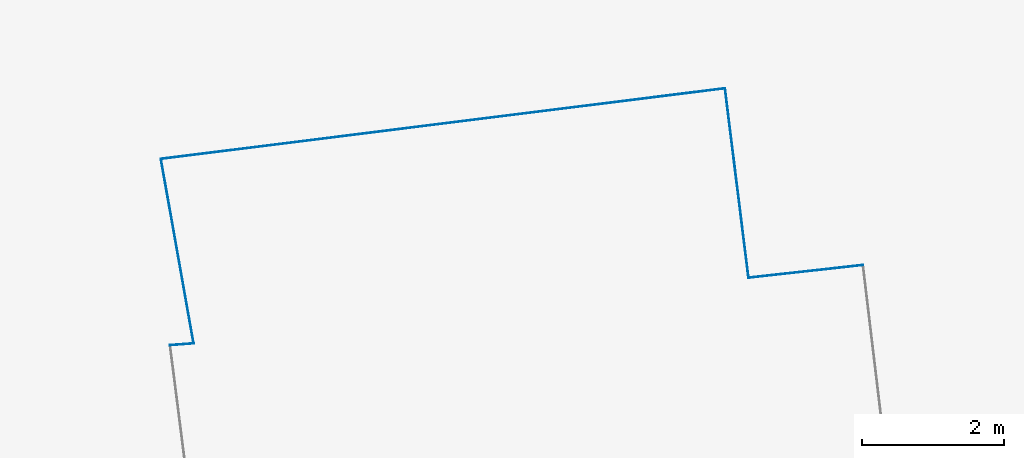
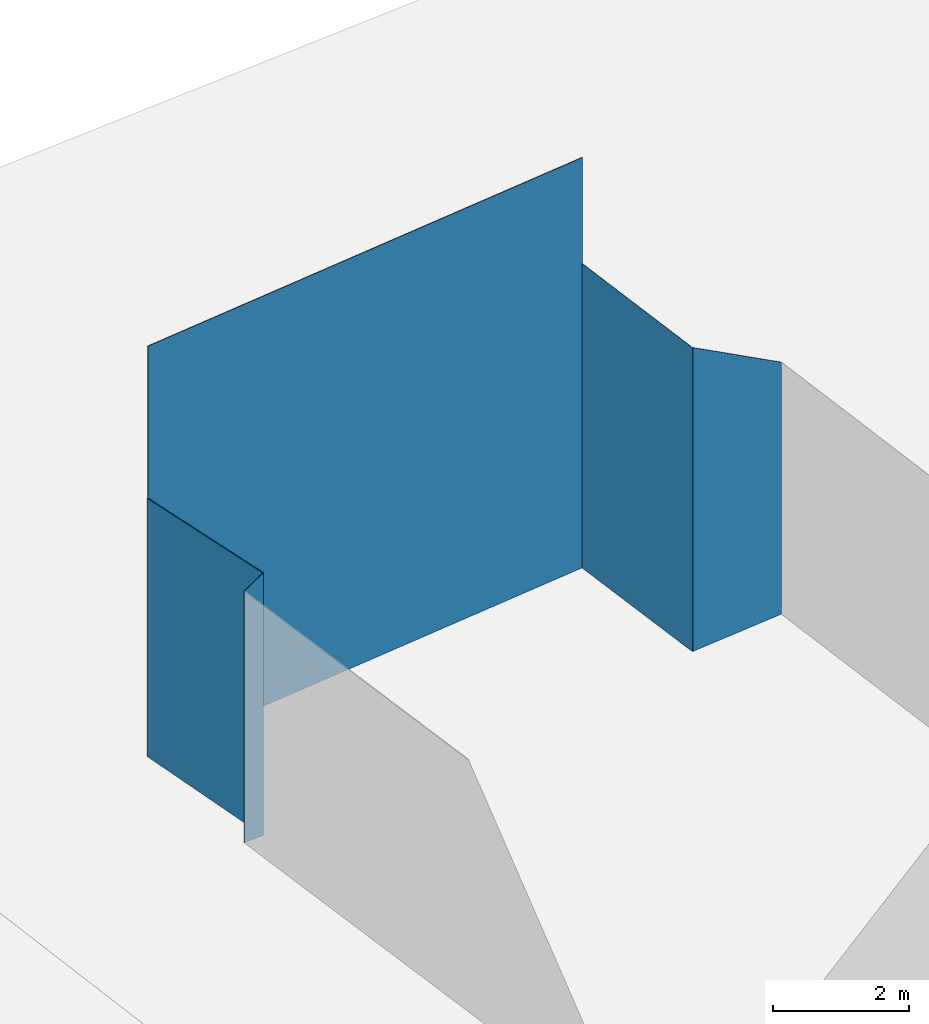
# One storey, part 36 of 75: 5 walls.
"""IFC2X3 building model written with IfcOpenShell, lengths in metres."""

from ifc_helpers import new_model, entity, si_unit, converted_unit, derived_unit, direction, frame, origin, place, context, subcontext, project, spatial, polyline, outline, extrude, clip, bounded_halfspace, material, layer, layer_set, layer_usage, type_object, element, save


model = new_model("IFC2X3")

# Units and contexts
model_context = context("Model", 3, precision=1e-05, world=origin(), true_north=direction((6.123031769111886e-17, 1.0)))
body_context = subcontext(model_context, "Body", "Model", "MODEL_VIEW")
ifc_project = project(units=[si_unit("LENGTHUNIT", "METRE"), si_unit("AREAUNIT", "SQUARE_METRE"), si_unit("VOLUMEUNIT", "CUBIC_METRE"), converted_unit("PLANEANGLEUNIT", "DEGREE", entity("IfcRatioMeasure", 0.017453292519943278), si_unit("PLANEANGLEUNIT", "RADIAN"), dimensions=[0, 0, 0, 0, 0, 0, 0]), si_unit("MASSUNIT", "GRAM", prefix="KILO"), derived_unit("MASSDENSITYUNIT", [(si_unit("MASSUNIT", "GRAM", prefix="KILO"), 1), (si_unit("LENGTHUNIT", "METRE"), -3)]), derived_unit("IONCONCENTRATIONUNIT", [(si_unit("MASSUNIT", "GRAM", prefix="KILO"), 1), (si_unit("LENGTHUNIT", "METRE"), -3)]), derived_unit("MOMENTOFINERTIAUNIT", [(si_unit("LENGTHUNIT", "METRE"), 4)]), si_unit("TIMEUNIT", "SECOND"), si_unit("FREQUENCYUNIT", "HERTZ"), si_unit("THERMODYNAMICTEMPERATUREUNIT", "DEGREE_CELSIUS"), derived_unit("THERMALTRANSMITTANCEUNIT", [(si_unit("MASSUNIT", "GRAM", prefix="KILO"), 1), (si_unit("THERMODYNAMICTEMPERATUREUNIT", "KELVIN"), -1), (si_unit("TIMEUNIT", "SECOND"), -3)]), derived_unit("THERMALCONDUCTANCEUNIT", [(si_unit("MASSUNIT", "GRAM", prefix="KILO"), 1), (si_unit("THERMODYNAMICTEMPERATUREUNIT", "KELVIN"), -1), (si_unit("TIMEUNIT", "SECOND"), -3), (si_unit("LENGTHUNIT", "METRE"), 1)]), derived_unit("VOLUMETRICFLOWRATEUNIT", [(si_unit("LENGTHUNIT", "METRE"), 3), (si_unit("TIMEUNIT", "SECOND"), -1)]), derived_unit("MASSFLOWRATEUNIT", [(si_unit("MASSUNIT", "GRAM", prefix="KILO"), 1), (si_unit("TIMEUNIT", "SECOND"), -1)]), derived_unit("ROTATIONALFREQUENCYUNIT", [(si_unit("TIMEUNIT", "SECOND"), -1)]), si_unit("ELECTRICCURRENTUNIT", "AMPERE"), si_unit("ELECTRICVOLTAGEUNIT", "VOLT"), si_unit("POWERUNIT", "WATT"), si_unit("FORCEUNIT", "NEWTON", prefix="KILO"), si_unit("ILLUMINANCEUNIT", "LUX"), si_unit("LUMINOUSFLUXUNIT", "LUMEN"), si_unit("LUMINOUSINTENSITYUNIT", "CANDELA"), derived_unit("USERDEFINED", [(si_unit("MASSUNIT", "GRAM", prefix="KILO"), -1), (si_unit("LENGTHUNIT", "METRE"), -2), (si_unit("TIMEUNIT", "SECOND"), 3), (si_unit("LUMINOUSFLUXUNIT", "LUMEN"), 1)]), derived_unit("USERDEFINED", [(si_unit("MASSUNIT", "GRAM", prefix="KILO"), 1), (si_unit("TIMEUNIT", "SECOND"), -3), (si_unit("LENGTHUNIT", "METRE"), 3), (si_unit("ELECTRICCURRENTUNIT", "AMPERE"), -2)]), derived_unit("SOUNDPOWERUNIT", [(si_unit("MASSUNIT", "GRAM", prefix="KILO"), 1), (si_unit("TIMEUNIT", "SECOND"), -3), (si_unit("LENGTHUNIT", "METRE"), 2)]), derived_unit("SOUNDPRESSUREUNIT", [(si_unit("MASSUNIT", "GRAM", prefix="KILO"), 1), (si_unit("LENGTHUNIT", "METRE"), -1), (si_unit("TIMEUNIT", "SECOND"), -2)]), derived_unit("LINEARVELOCITYUNIT", [(si_unit("LENGTHUNIT", "METRE"), 1), (si_unit("TIMEUNIT", "SECOND"), -1)]), si_unit("PRESSUREUNIT", "PASCAL"), derived_unit("USERDEFINED", [(si_unit("MASSUNIT", "GRAM", prefix="KILO"), 1), (si_unit("LENGTHUNIT", "METRE"), -2), (si_unit("TIMEUNIT", "SECOND"), -2)]), derived_unit("LINEARFORCEUNIT", [(si_unit("MASSUNIT", "GRAM", prefix="KILO"), 1), (si_unit("TIMEUNIT", "SECOND"), -2)]), derived_unit("PLANARFORCEUNIT", [(si_unit("MASSUNIT", "GRAM", prefix="KILO"), 1), (si_unit("LENGTHUNIT", "METRE"), -1), (si_unit("TIMEUNIT", "SECOND"), -2)]), derived_unit("SPECIFICHEATCAPACITYUNIT", [(si_unit("THERMODYNAMICTEMPERATUREUNIT", "KELVIN"), -1), (si_unit("LENGTHUNIT", "METRE"), 2), (si_unit("TIMEUNIT", "SECOND"), -2)]), derived_unit("HEATINGVALUEUNIT", [(si_unit("LENGTHUNIT", "METRE"), 2), (si_unit("TIMEUNIT", "SECOND"), -2)]), derived_unit("VAPORPERMEABILITYUNIT", [(si_unit("LENGTHUNIT", "METRE"), -1), (si_unit("TIMEUNIT", "SECOND"), 1)]), derived_unit("DYNAMICVISCOSITYUNIT", [(si_unit("MASSUNIT", "GRAM", prefix="KILO"), 1), (si_unit("TIMEUNIT", "SECOND"), -1), (si_unit("LENGTHUNIT", "METRE"), -1)]), derived_unit("THERMALEXPANSIONCOEFFICIENTUNIT", [(si_unit("THERMODYNAMICTEMPERATUREUNIT", "KELVIN"), -1)]), derived_unit("MODULUSOFELASTICITYUNIT", [(si_unit("MASSUNIT", "GRAM", prefix="KILO"), 1), (si_unit("LENGTHUNIT", "METRE"), -1), (si_unit("TIMEUNIT", "SECOND"), -2)]), derived_unit("ISOTHERMALMOISTURECAPACITYUNIT", [(si_unit("LENGTHUNIT", "METRE"), 3), (si_unit("MASSUNIT", "GRAM", prefix="KILO"), -1)]), derived_unit("MOISTUREDIFFUSIVITYUNIT", [(si_unit("TIMEUNIT", "SECOND"), -1), (si_unit("LENGTHUNIT", "METRE"), 2)])], contexts=[model_context])

# Site, building, storey
site_placement = place(None, origin())
site = spatial("IfcSite", under=ifc_project, at=site_placement, Name="Default", CompositionType="ELEMENT")
building_placement = place(site_placement, origin())
building = spatial("IfcBuilding", under=site, at=building_placement, Name="Projeto", CompositionType="ELEMENT")
storey_placement = place(building_placement, origin())
storey = spatial("IfcBuildingStorey", under=building, at=storey_placement, Name="Nível 1", CompositionType="ELEMENT", Elevation=0.0)

# Walls
ifc_material = material(Name="Metal")
ifc_layer = layer(ifc_material, 0.01)
ifc_layer_set = layer_set([ifc_layer], Name="Parede básica:JA_Aluminio")
ifc_layer_usage = layer_usage(ifc_layer_set, "AXIS2", "NEGATIVE", 0.005)
wall_type = type_object("IfcWallType", Name="Parede básica:JA_Aluminio", PredefinedType="STANDARD", material=ifc_layer_set)
wall_1_placement = place(storey_placement, frame((23.0342956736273, 62.37741942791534, -2.6), z_axis=(0.0, 0.0, 1.0), x_axis=(0.997203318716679, 0.0747364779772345, 0.0)))
element("IfcWallStandardCase", 1, at=wall_1_placement, inside=storey, type_object=wall_type, material=ifc_layer_usage, Name="Parede básica:JA_Aluminio", ObjectType="Parede básica:JA_Aluminio", context=body_context, shape_type="Clipping", body=[
    clip(extrude(outline(polyline([(0.34472911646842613, -0.005000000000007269), (0.34371778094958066, 0.005000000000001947), (0.33366677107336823, 0.005000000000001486), (0.0, 0.005000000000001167), (0.0005238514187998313, -0.005000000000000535), (0.010537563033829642, -0.0049999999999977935), (0.34472911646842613, -0.005000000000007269)])), origin(), (0.0, 0.0, 1.0), 4.718070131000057), bounded_halfspace(frame((0.0005238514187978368, -0.004999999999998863, 4.519615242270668), z_axis=(-0.49931535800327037, -0.026156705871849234, 0.8660254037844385), x_axis=(0.052313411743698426, -0.9986307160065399, 0.0)), False, frame((0.0005238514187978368, -0.004999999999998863, 4.519615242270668)), polyline([(0.0, 0.0), (0.010013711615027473, 0.0), (0.34420526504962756, 0.0), (0.34319392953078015, 0.009999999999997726), (0.3331429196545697, 0.009999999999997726), (-0.0005238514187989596, 0.009999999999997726), (0.0, 0.0)]))),
])
wall_2_placement = place(storey_placement, frame((23.371755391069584, 62.40722022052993, -2.6), z_axis=(0.0, 0.0, 1.0), x_axis=(-0.1746960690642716, 0.9846224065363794, 0.0)))
element("IfcWallStandardCase", 2, at=wall_2_placement, inside=storey, type_object=wall_type, material=ifc_layer_usage, Name="Parede básica:JA_Aluminio", ObjectType="Parede básica:JA_Aluminio", context=body_context, shape_type="Clipping", body=[
    clip(extrude(outline(polyline([(2.6440464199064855, -0.005000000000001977), (2.644558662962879, 0.005000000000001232), (0.0010113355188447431, 0.0050000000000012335), (0.0, -0.005000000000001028), (2.6340333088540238, -0.004999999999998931), (2.6440464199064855, -0.005000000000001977)])), origin(), (0.0, 0.0, 1.0), 4.717789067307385), bounded_halfspace(frame((0.0, -0.004999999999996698, 4.717789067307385), z_axis=(0.02421729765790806, 0.4994131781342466, 0.8660254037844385), x_axis=(-0.9988263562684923, 0.048434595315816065, 0.0)), False, frame((0.0, -0.004999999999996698, 4.717789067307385)), polyline([(0.0, 0.0), (2.634033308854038, 0.0), (2.644046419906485, 0.0), (2.6445586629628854, 0.009999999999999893), (0.0010113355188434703, 0.009999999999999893), (0.0, 0.0)]))),
])
wall_3_placement = place(storey_placement, frame((22.915394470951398, 65.00651969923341, -2.6), z_axis=(0.0, 0.0, 1.0), x_axis=(0.9922701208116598, 0.12409676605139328, 0.0)))
element("IfcWallStandardCase", 3, at=wall_3_placement, inside=storey, type_object=wall_type, material=ifc_layer_usage, Name="Parede básica:JA_Aluminio", ObjectType="Parede básica:JA_Aluminio", context=body_context, shape_type="Clipping", body=[
    clip(clip(extrude(outline(polyline([(8.021025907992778, -0.004999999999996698), (8.021033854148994, 0.005000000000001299), (0.0, 0.00500000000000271), (0.000512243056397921, -0.005000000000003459), (8.011025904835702, -0.004999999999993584), (8.021025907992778, -0.004999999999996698)])), origin(), (0.0, 0.0, 1.0), 7.369269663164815), bounded_halfspace(frame((0.0005122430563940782, -0.004999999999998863, 4.644131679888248), z_axis=(-0.4999981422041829, -0.0013630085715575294, 0.8660254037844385), x_axis=(0.0027260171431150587, -0.999996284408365, 0.0)), False, frame((0.0005122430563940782, -0.004999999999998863, 4.644131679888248)), polyline([(0.0, 0.0), (4.720056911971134, 0.0), (4.720067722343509, 0.009999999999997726), (-0.0005122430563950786, 0.01000000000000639), (0.0, 0.0)]))), bounded_halfspace(frame((4.720569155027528, -0.004999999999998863, 7.369247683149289), z_axis=(0.4999940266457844, -0.00244403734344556, 0.8660254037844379), x_axis=(0.004888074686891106, 0.9999880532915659, 0.0)), False, frame((4.720569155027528, -0.004999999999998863, 7.369247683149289)), polyline([(0.0, 0.0), (3.290456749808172, 0.0), (3.300456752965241, 0.0), (3.3004646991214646, 0.009999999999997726), (1.081037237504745e-05, 0.009999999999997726), (0.0, 0.0)]))),
])
wall_4_placement = place(storey_placement, frame((30.87007745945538, 65.99632518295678, -2.6), z_axis=(0.0, 0.0, 1.0), x_axis=(0.12330825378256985, -0.9923684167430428, 0.0)))
element("IfcWallStandardCase", 4, at=wall_4_placement, inside=storey, type_object=wall_type, material=ifc_layer_usage, Name="Parede básica:JA_Aluminio", ObjectType="Parede básica:JA_Aluminio", context=body_context, shape_type="Clipping", body=[
    clip(extrude(outline(polyline([(2.6929284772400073, -0.00499999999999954), (2.6930588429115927, 0.004999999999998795), (2.683057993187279, 0.004999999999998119), (0.0, 0.004999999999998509), (7.946156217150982e-06, -0.005000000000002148), (2.6929284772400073, -0.00499999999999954)])), origin(), (0.0, 0.0, 1.0), 5.46952428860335), bounded_halfspace(frame((7.94615621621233e-06, -0.005000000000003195, 5.46952428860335), z_axis=(0.002046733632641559, 0.49999581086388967, 0.8660254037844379), x_axis=(-0.9999916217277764, 0.004093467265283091, 0.0)), False, frame((7.94615621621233e-06, -0.005000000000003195, 5.46952428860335)), polyline([(0.0, 0.0), (2.6929205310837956, 0.0), (2.6930508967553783, 0.009999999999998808), (-7.946156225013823e-06, 0.010000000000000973), (0.0, 0.0)]))),
])
wall_5_placement = place(storey_placement, frame((31.206434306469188, 63.32939025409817, -2.6), z_axis=(0.0, 0.0, 1.0), x_axis=(0.9938914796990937, 0.11036179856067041, 0.0)))
element("IfcWallStandardCase", 5, at=wall_5_placement, inside=storey, type_object=wall_type, material=ifc_layer_usage, Name="Parede básica:JA_Aluminio", ObjectType="Parede básica:JA_Aluminio", context=body_context, shape_type="Clipping", body=[
    clip(extrude(outline(polyline([(1.6244622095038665, -0.004999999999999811), (1.624372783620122, 0.005000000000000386), (0.0, 0.00500000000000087), (0.0001303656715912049, -0.0049999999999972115), (1.6144618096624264, -0.004999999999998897), (1.6244622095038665, -0.004999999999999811)])), origin(), (0.0, 0.0, 1.0), 5.457409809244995), bounded_halfspace(frame((0.00013036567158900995, -0.004999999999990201, 5.457386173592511), z_axis=(0.49998000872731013, 0.004471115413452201, 0.8660254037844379), x_axis=(-0.008942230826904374, 0.9999600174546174, 0.0)), False, frame((0.00013036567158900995, -0.004999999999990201, 5.457386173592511)), polyline([(0.0, 0.0), (1.6143314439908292, 0.0), (1.6243318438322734, 0.0), (1.6242424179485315, 0.009999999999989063), (-0.00013036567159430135, 0.009999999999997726), (0.0, 0.0)]))),
])

save(model, "model.ifc")
